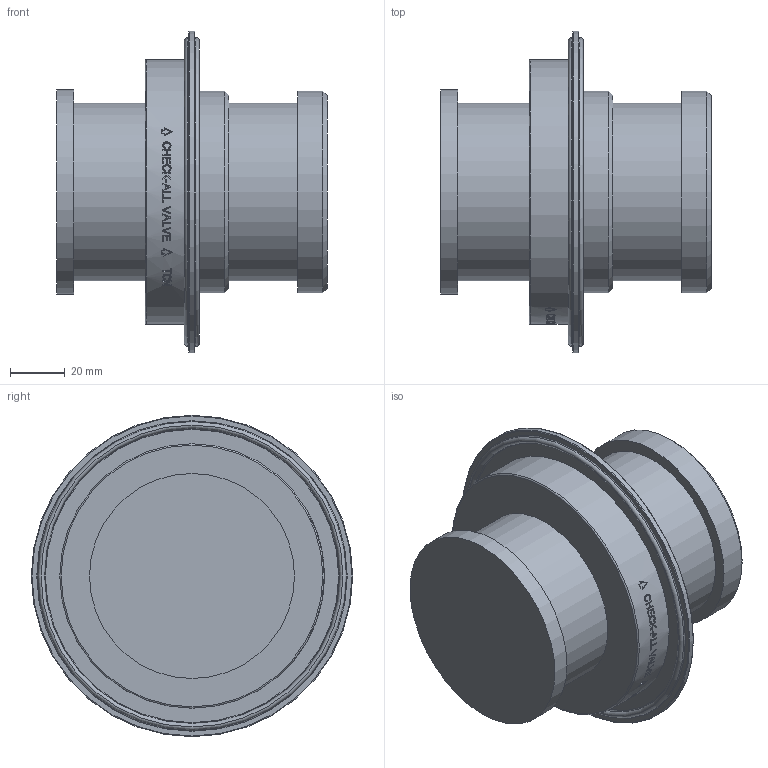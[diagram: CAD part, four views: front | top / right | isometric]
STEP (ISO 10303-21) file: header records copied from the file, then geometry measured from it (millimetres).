
FILE_DESCRIPTION( ( 'Unknown' ), '1' );
FILE_NAME( 'Y:/ENGR/3D Solid Edge Models/TC/Stp/TCN.stp', 'Unknown', ( 'Unknown' ), ( 'Unknown' ), 'PSStep 16.0.42', 'Unknown', ' ' );
FILE_SCHEMA( ( 'AUTOMOTIVE_DESIGN { 1 0 10303 214 1 1 1 1 }' ) );
Length unit declared in the file: millimetre
Products named in the file (1): 1
Bounding box: 98.76 x 117.47 x 117.47 mm (x, y, z)
Volume: 440374.7 mm3; surface area: 49228.9 mm2
Topology: 1 solids, 1 shells, 221 faces, 550 edges, 364 vertices
Faces by surface type: plane 129, bspline 47, cylinder 30, torus 12, cone 3
Full cylindrical faces by diameter (mm): 65.024 x2, 73.787 x2, 74.93 x1, 96.672 x1, 117.475 x1
Entity records: 9727 total; most frequent: CARTESIAN_POINT 3860, ORIENTED_EDGE 1050, EDGE_CURVE 525, B_SPLINE_CURVE_WITH_KNOTS 492, DIRECTION 416, VERTEX_POINT 361, EDGE_LOOP 276, FACE_OUTER_BOUND 240
